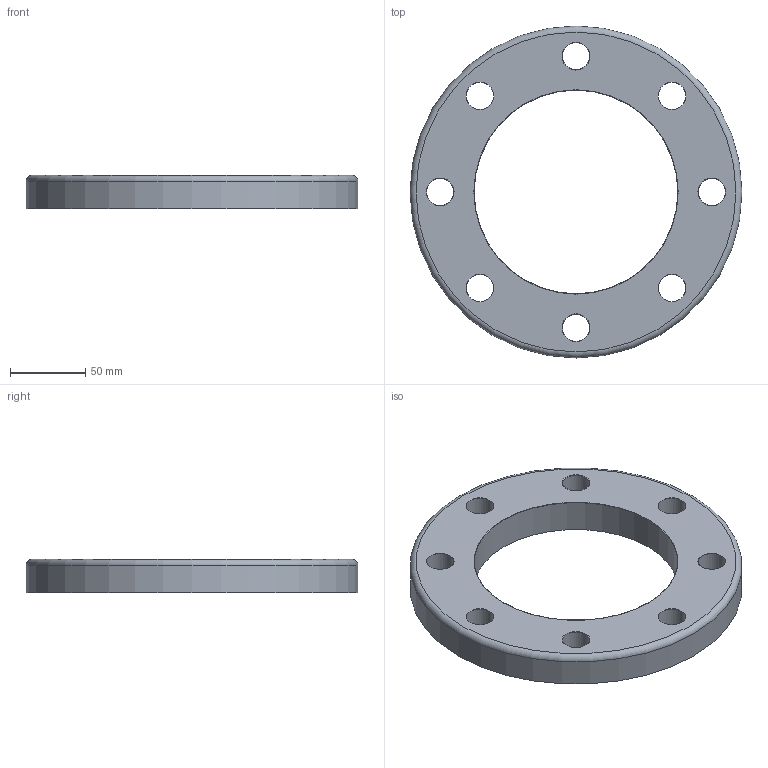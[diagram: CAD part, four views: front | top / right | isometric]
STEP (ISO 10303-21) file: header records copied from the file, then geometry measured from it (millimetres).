
FILE_DESCRIPTION(/* description */ ('PVC-U flangia libera BS 4504 DIN 8063 / PVC-U backing ring drilled to BS 4504 DIN 8063'),/* implementation_level */ '2;1');
FILE_NAME(/* name */ 'C:\Users\POLYPIPE\Desktop\DATASET INVENTOR\LIBRERIA EFFAST\RACCORDI 3DxWEB\RDR\3D_RDRFLD\3D_RDRFLD1100.stp',/* time_stamp */ '2018-01-19T14:22:53+01:00',/* author */ ('POLYPIPE'),/* organization */ ('Polypipe Italia s.r.l.'),/* preprocessor_version */ 'ST-DEVELOPER v16.1',/* originating_system */ 'Autodesk Inventor 2016',/* authorisation */ '');
FILE_SCHEMA (('CONFIG_CONTROL_DESIGN'));
Length unit declared in the file: millimetre
Products named in the file (1): 3D_RDRFLD
Bounding box: 220 x 220 x 22 mm (x, y, z)
Volume: 474238.6 mm3; surface area: 76546.9 mm2
Topology: 1 solids, 1 shells, 22 faces, 50 edges, 30 vertices
Faces by surface type: torus 10, cylinder 10, plane 2
Full cylindrical faces by diameter (mm): 18 x8, 135 x1, 220 x1
Entity records: 584 total; most frequent: DIRECTION 106, CARTESIAN_POINT 83, EDGE_LOOP 60, ORIENTED_EDGE 60, AXIS2_PLACEMENT_3D 53, FACE_BOUND 38, CIRCLE 30, VERTEX_POINT 30
